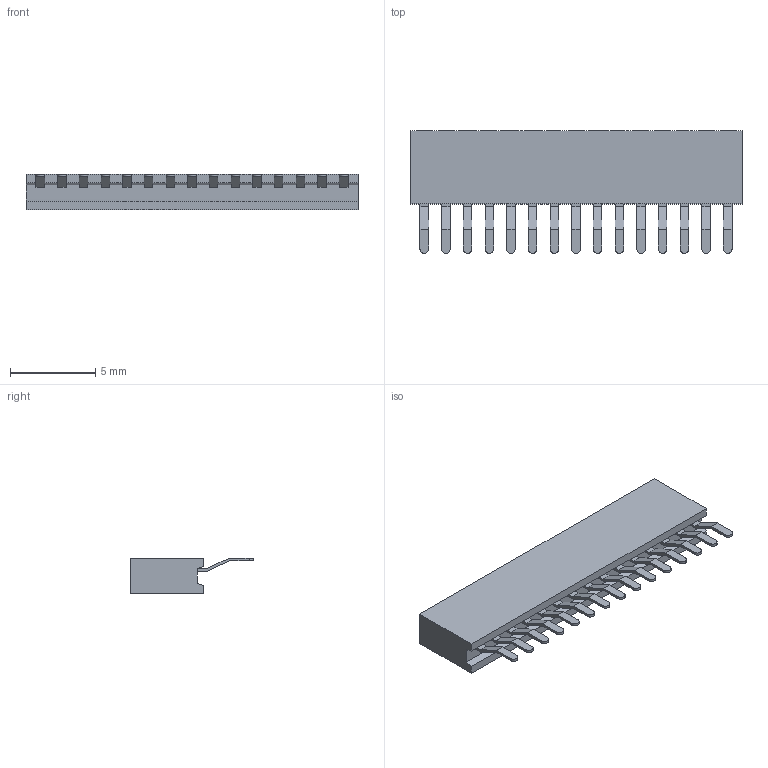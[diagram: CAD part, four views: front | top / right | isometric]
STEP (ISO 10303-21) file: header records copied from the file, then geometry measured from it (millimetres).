
FILE_DESCRIPTION(/* description */ (''),/* implementation_level */ '2;1');
FILE_NAME(/* name */ 'E:\工作文件\排针排母\PM排母\1.27\单排\WS-卧贴\PM127-1-15-WS-4.3(单排 卧贴 排母-HCTL).stp',/* time_stamp */ '2024-01-02T17:49:26+08:00',/* author */ ('admin'),/* organization */ (''),/* preprocessor_version */ 'ST-DEVELOPER v18.1',/* originating_system */ 'Autodesk Inventor 2021',/* authorisation */ '');
FILE_SCHEMA (('AUTOMOTIVE_DESIGN { 1 0 10303 214 3 1 1 }'));
Length unit declared in the file: millimetre
Products named in the file (1): PM127-1-1-WS-4.3(单排 卧贴 排母-
HCTL)
Bounding box: 19.45 x 7.2 x 2.1 mm (x, y, z)
Volume: 163.5 mm3; surface area: 401 mm2
Topology: 1 solids, 1 shells, 280 faces, 699 edges, 436 vertices
Faces by surface type: plane 265, cylinder 15
Entity records: 8114 total; most frequent: CARTESIAN_POINT 1416, ORIENTED_EDGE 1398, DIRECTION 1291, EDGE_CURVE 699, LINE 669, VECTOR 669, VERTEX_POINT 436, AXIS2_PLACEMENT_3D 311
